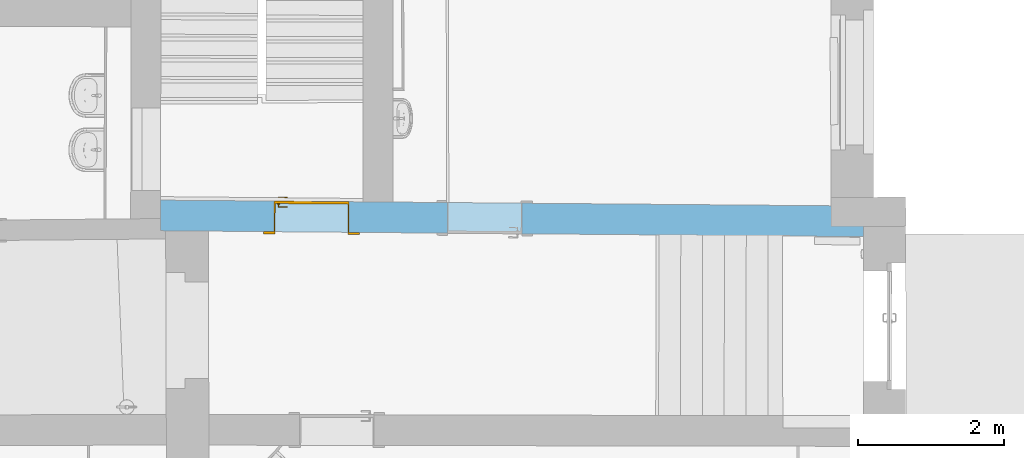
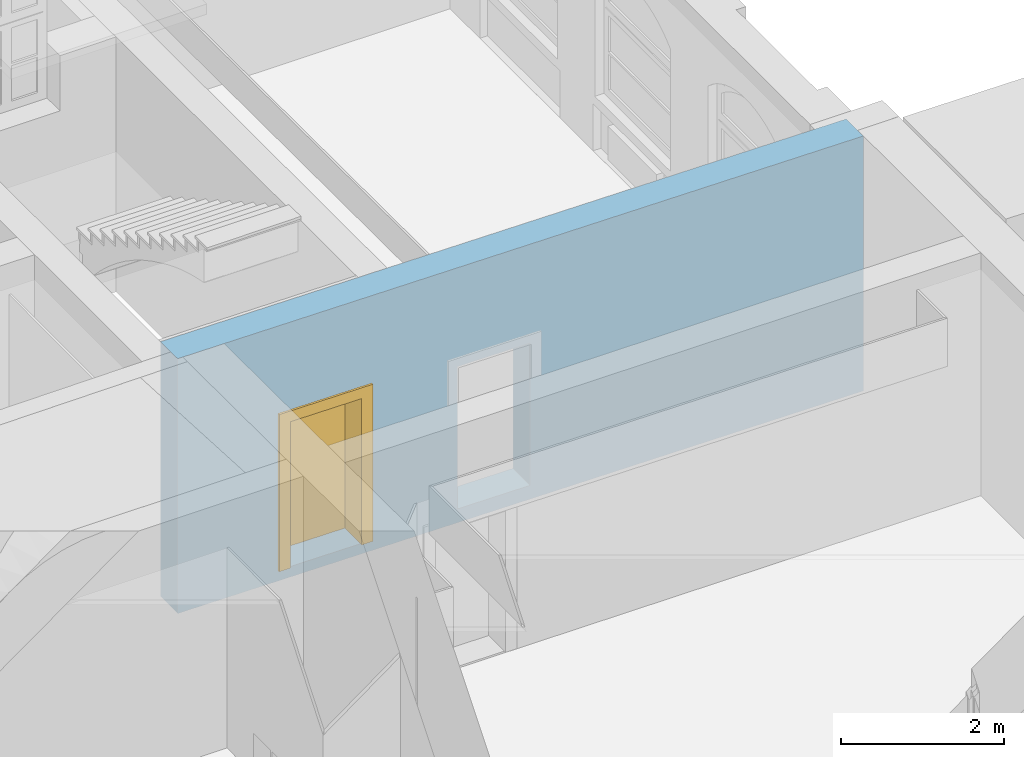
# One storey, part 85 of 158: 1 door, 2 openings, plus 1 element that does not belong to this part.
"""IFC2X3 building model written with IfcOpenShell, lengths in metres."""

from ifc_helpers import new_model, entity, si_unit, converted_unit, derived_unit, money_unit, direction, frame, origin_with_axes, origin_2d_with_axis, place, context, subcontext, project, spatial, polyline, rectangle, outline, extrude, open_shell, faceted_brep, surface_model, material, layer, layer_set, layer_usage, type_object, element, fill, save


model = new_model("IFC2X3")

# Units and contexts
model_context = context("Model", 3, precision=1e-05, world=origin_with_axes(), true_north=direction((0.0, 1.0)))
body_context = subcontext(model_context, "Body", "Model", "MODEL_VIEW")
ifc_project = project(units=[si_unit("LENGTHUNIT", "METRE"), si_unit("AREAUNIT", "SQUARE_METRE"), si_unit("VOLUMEUNIT", "CUBIC_METRE"), converted_unit("PLANEANGLEUNIT", "DEGREE", entity("IfcPlaneAngleMeasure", 0.0174532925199), si_unit("PLANEANGLEUNIT", "RADIAN"), dimensions=[0, 0, 0, 0, 0, 0, 0]), money_unit("EUR"), converted_unit("TIMEUNIT", "Year", entity("IfcTimeMeasure", 31556926.0), si_unit("TIMEUNIT", "SECOND"), dimensions=[0, 0, 1, 0, 0, 0, 0]), si_unit("MASSUNIT", "GRAM", prefix="KILO"), si_unit("THERMODYNAMICTEMPERATUREUNIT", "DEGREE_CELSIUS"), si_unit("LUMINOUSINTENSITYUNIT", "LUMEN"), si_unit("ENERGYUNIT", "JOULE", prefix="MEGA"), derived_unit("THERMALCONDUCTANCEUNIT", [(si_unit("POWERUNIT", "WATT"), 1), (si_unit("LENGTHUNIT", "METRE"), -1), (si_unit("THERMODYNAMICTEMPERATUREUNIT", "KELVIN"), -1)]), derived_unit("SPECIFICHEATCAPACITYUNIT", [(si_unit("ENERGYUNIT", "JOULE"), 1), (si_unit("MASSUNIT", "GRAM", prefix="KILO"), -1), (si_unit("THERMODYNAMICTEMPERATUREUNIT", "KELVIN"), -1)]), derived_unit("MASSDENSITYUNIT", [(si_unit("MASSUNIT", "GRAM", prefix="KILO"), 1), (si_unit("VOLUMEUNIT", "CUBIC_METRE"), -1)])], contexts=[model_context])

# Site, building, storey
site_placement = place(None, origin_with_axes())
site = spatial("IfcSite", under=ifc_project, at=site_placement, Name="Gelände", CompositionType="ELEMENT")
building_placement = place(site_placement, origin_with_axes())
building = spatial("IfcBuilding", under=site, at=building_placement, Name="Gebäude", CompositionType="ELEMENT")
storey_placement = place(building_placement, origin_with_axes())
storey = spatial("IfcBuildingStorey", under=building, at=storey_placement, Name="ERDGESCHOSS", CompositionType="ELEMENT", Elevation=0.0)

# Wall, openings, door
ifc_material = material(Name="05_ALLGEMEIN - TRAGENDE BAUTEILE")
ifc_layer = layer(ifc_material, 0.42, ventilated="UNKNOWN")
ifc_layer_set = layer_set([ifc_layer], Name="05_ALLGEMEIN - TRAGENDE BAUTEILE 0.42")
ifc_layer_usage = layer_usage(ifc_layer_set, "AXIS2", "NEGATIVE", 0.42)
wall_type = type_object("IfcWallType", Name="05_ALLGEMEIN - TRAGENDE BAUTEILE 420", PredefinedType="ELEMENTEDWALL")
wall_placement = place(storey_placement, frame((21.8936762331, 19.3427264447, -0.210000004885), z_axis=(0.0, 0.0, 1.0), x_axis=(0.999964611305, -0.00841285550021, 0.0)))
wall = element("IfcWallStandardCase", 1, at=wall_placement, inside=storey, type_object=wall_type, material=ifc_layer_usage, Name="Wand-039", ObjectType="ELEMENTEDWALL", context=body_context, shape_type="SweptSolid", body=[
    extrude(outline(polyline([(0.0, 0.0), (9.64700059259, 0.0), (9.64378739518, 0.42), (-0.00298585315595, 0.42), (0.0, 0.0)])), origin_with_axes(), (0.0, 0.0, 1.0), 3.81000000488),
])
opening_1_placement = place(wall_placement, frame((2.07098933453, 0.0, 0.156582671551), z_axis=(0.0, 0.0, 1.0), x_axis=(1.0, 0.0, 0.0)))
opening_1 = element("IfcOpeningElement", 2, at=opening_1_placement, cuts=wall, Name="Tür-022", context=body_context, shape_type="SweptSolid", body=[
    extrude(rectangle(XDim=1.02822560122, YDim=2.203152, at=origin_2d_with_axis()), frame((0.0, 0.42, 1.101576), z_axis=(0.0, -1.0, 0.0), x_axis=(1.0, 0.0, 0.0)), (0.0, 0.0, 1.0), 1.26),
])
opening_2_placement = place(wall_placement, frame((4.44709559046, 0.0, 0.205703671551), z_axis=(0.0, 0.0, 1.0), x_axis=(1.0, 0.0, 0.0)))
element("IfcOpeningElement", 3, at=opening_2_placement, cuts=wall, Name="Tür-022", context=body_context, shape_type="SweptSolid", body=[
    extrude(rectangle(XDim=1.0219033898, YDim=2.127002, at=origin_2d_with_axis()), frame((0.0, 0.42, 1.063501), z_axis=(0.0, -1.0, 0.0), x_axis=(-1.0, 0.0, 0.0)), (0.0, 0.0, 1.0), 1.26),
])
door_style = type_object("IfcDoorStyle", Name="Blockrahmentür 1-Fl 25", ConstructionType="NOTDEFINED", OperationType="SINGLE_SWING_RIGHT", ParameterTakesPrecedence=False, Sizeable=False)
door_placement = place(opening_1_placement, frame((-0.499112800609, 0.0, 0.0), z_axis=(0.0, 0.0, 1.0), x_axis=(1.0, 0.0, 0.0)))
door = element("IfcDoor", 4, at=door_placement, inside=storey, type_object=door_style, Name="Tür-022", ObjectType="NOTDEFINED", OverallHeight=2.20315, OverallWidth=1.02823, context=body_context, shape_type="SurfaceModel", body=[
    faceted_brep([(1.01322560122, -0.03, 0.0), (1.01322560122, 0.385, 0.0), (1.01322560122, 0.385, 2.203152), (1.01322560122, -0.03, 2.203152), (0.998225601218, -0.03, 0.0), (0.998225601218, 0.385, 0.0), (0.998225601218, 0.385, 2.188152), (0.614212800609, 0.385, 2.188152), (0.499212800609, 0.385, 2.188152), (0.0, 0.385, 2.188152), (0.0, 0.385, 0.0), (-0.015, 0.385, 0.0), (-0.015, 0.385, 2.203152), (-0.015, -0.03, 2.203152), (-0.015, -0.03, 0.0), (0.0, -0.03, 0.0), (0.0, -0.03, 2.188152), (0.499212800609, -0.03, 2.188152), (0.614212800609, -0.03, 2.188152), (0.998225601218, -0.03, 2.188152)], [[[0, 1, 2, 3]], [[4, 5, 1, 0]], [[1, 5, 6, 7, 8, 9, 10, 11, 12, 2]], [[3, 2, 12, 13]], [[0, 3, 13, 14, 15, 16, 17, 18, 19, 4]], [[19, 6, 5, 4]], [[18, 7, 6, 19]], [[17, 8, 7, 18]], [[16, 9, 8, 17]], [[15, 10, 9, 16]], [[14, 11, 10, 15]], [[13, 12, 11, 14]]]),
    surface_model("IfcShellBasedSurfaceModel", [(1.01322560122, 0.385, 0.0), (1.01322560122, 0.45, 0.0), (1.01322560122, 0.45, 2.203152), (1.01322560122, 0.385, 2.203152), (1.01322560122, 0.385, 2.203152), (1.01322560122, 0.45, 2.203152), (-0.015, 0.45, 2.203152), (0.514212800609, 0.45, 2.203152), (0.599212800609, 0.45, 2.203152), (0.599212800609, 0.385, 2.203152), (0.514212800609, 0.385, 2.203152), (-0.015, 0.385, 2.203152), (-0.015, 0.385, 2.203152), (-0.015, 0.385, 0.0), (-0.015, 0.45, 0.0), (-0.015, 0.45, 2.203152)], [open_shell([[[0, 1, 2, 3]], [[4, 5, 1, 0]], [[6, 7, 8, 2]], [[3, 2, 8, 9]], [[9, 10, 11, 4]], [[12, 6, 5, 4]], [[13, 14, 6, 12]], [[11, 15, 14, 13]], [[10, 7, 15, 11]], [[9, 8, 7, 10]]])]),
    faceted_brep([(1.15822560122, -0.03, 0.0), (1.15822560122, 0.0, 0.0), (1.15822560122, 0.0, 2.348152), (1.15822560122, -0.03, 2.348152), (1.01322560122, -0.03, 0.0), (1.01322560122, 0.0, 0.0), (1.01322560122, 0.0, 2.203152), (-0.015, 0.0, 2.203152), (-0.015, 0.0, 0.0), (-0.16, 0.0, 0.0), (-0.16, 0.0, 2.348152), (-0.16, -0.03, 2.348152), (-0.16, -0.03, 0.0), (-0.015, -0.03, 0.0), (-0.015, -0.03, 2.203152), (1.01322560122, -0.03, 2.203152)], [[[0, 1, 2, 3]], [[4, 5, 1, 0]], [[1, 5, 6, 7, 8, 9, 10, 2]], [[3, 2, 10, 11]], [[0, 3, 11, 12, 13, 14, 15, 4]], [[15, 6, 5, 4]], [[14, 7, 6, 15]], [[13, 8, 7, 14]], [[12, 9, 8, 13]], [[11, 10, 9, 12]]]),
    faceted_brep([(1.15822560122, 0.42, 0.0), (1.15822560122, 0.45, 0.0), (1.15822560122, 0.45, 2.348152), (1.15822560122, 0.42, 2.348152), (1.01322560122, 0.42, 0.0), (1.01322560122, 0.45, 0.0), (1.01322560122, 0.45, 2.203152), (-0.015, 0.45, 2.203152), (-0.015, 0.45, 0.0), (-0.16, 0.45, 0.0), (-0.16, 0.45, 2.348152), (-0.16, 0.42, 2.348152), (-0.16, 0.42, 0.0), (-0.015, 0.42, 0.0), (-0.015, 0.42, 2.203152), (1.01322560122, 0.42, 2.203152)], [[[0, 1, 2, 3]], [[4, 5, 1, 0]], [[1, 5, 6, 7, 8, 9, 10, 2]], [[3, 2, 10, 11]], [[0, 3, 11, 12, 13, 14, 15, 4]], [[15, 6, 5, 4]], [[14, 7, 6, 15]], [[13, 8, 7, 14]], [[12, 9, 8, 13]], [[11, 10, 9, 12]]]),
    faceted_brep([(1.01322560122, 0.422, 0.0), (-0.015, 0.422, 0.0), (-0.015, 0.422, 2.203152), (1.01322560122, 0.422, 2.203152), (1.01322560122, 0.385, 0.0), (-0.015, 0.385, 0.0), (-0.015, 0.385, 2.203152), (1.01322560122, 0.385, 2.203152)], [[[0, 1, 2, 3]], [[1, 0, 4, 5]], [[2, 1, 5, 6]], [[3, 2, 6, 7]], [[0, 3, 7, 4]], [[5, 4, 7, 6]]]),
    faceted_brep([(0.0402977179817, 0.345, 1.05647213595), (0.045, 0.345, 1.058), (0.045, 0.365, 1.058), (0.0402977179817, 0.365, 1.05647213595), (0.0373915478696, 0.345, 1.05247213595), (0.0373915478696, 0.345, 1.04752786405), (0.0402977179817, 0.345, 1.04352786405), (0.045, 0.345, 1.042), (0.0497022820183, 0.345, 1.04352786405), (0.0526084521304, 0.345, 1.04752786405), (0.0526084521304, 0.345, 1.05247213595), (0.0497022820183, 0.345, 1.05647213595), (0.0497022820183, 0.365, 1.05647213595), (0.045, 0.367, 1.06), (0.0391221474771, 0.367, 1.05809016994), (0.0373915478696, 0.365, 1.05247213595), (0.0373915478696, 0.365, 1.04752786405), (0.0402977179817, 0.365, 1.04352786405), (0.045, 0.365, 1.042), (0.0497022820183, 0.365, 1.04352786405), (0.0526084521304, 0.365, 1.04752786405), (0.0526084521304, 0.365, 1.05247213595), (0.0508778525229, 0.367, 1.05809016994), (0.045, 0.375, 1.06), (0.0391221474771, 0.375, 1.05809016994), (0.0354894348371, 0.367, 1.05309016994), (0.0354894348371, 0.367, 1.04690983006), (0.0391221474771, 0.367, 1.04190983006), (0.045, 0.367, 1.04), (0.0508778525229, 0.367, 1.04190983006), (0.054510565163, 0.367, 1.04690983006), (0.054510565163, 0.367, 1.05309016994), (0.0508778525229, 0.375, 1.05809016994), (0.054510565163, 0.375, 1.05309016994), (0.054510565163, 0.375, 1.04690983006), (0.0508778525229, 0.375, 1.04190983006), (0.045, 0.375, 1.04), (0.0391221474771, 0.375, 1.04190983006), (0.0354894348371, 0.375, 1.04690983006), (0.0354894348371, 0.375, 1.05309016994)], [[[0, 1, 2, 3]], [[1, 0, 4, 5, 6, 7, 8, 9, 10, 11]], [[1, 11, 12, 2]], [[3, 2, 13, 14]], [[4, 0, 3, 15]], [[5, 4, 15, 16]], [[6, 5, 16, 17]], [[7, 6, 17, 18]], [[8, 7, 18, 19]], [[9, 8, 19, 20]], [[10, 9, 20, 21]], [[11, 10, 21, 12]], [[2, 12, 22, 13]], [[14, 13, 23, 24]], [[15, 3, 14, 25]], [[16, 15, 25, 26]], [[17, 16, 26, 27]], [[18, 17, 27, 28]], [[19, 18, 28, 29]], [[20, 19, 29, 30]], [[21, 20, 30, 31]], [[12, 21, 31, 22]], [[13, 22, 32, 23]], [[23, 32, 33, 34, 35, 36, 37, 38, 39, 24]], [[25, 14, 24, 39]], [[26, 25, 39, 38]], [[27, 26, 38, 37]], [[28, 27, 37, 36]], [[29, 28, 36, 35]], [[30, 29, 35, 34]], [[31, 30, 34, 33]], [[22, 31, 33, 32]]]),
    faceted_brep([(0.0571883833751, 0.375, 1.11759695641), (0.0494435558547, 0.375, 1.12195567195), (0.0405564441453, 0.375, 1.12195567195), (0.0328116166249, 0.375, 1.11759695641), (0.0282, 0.375, 1.11), (0.0225, 0.375, 1.11), (0.0225, 0.375, 0.89), (0.0282, 0.375, 0.89), (0.0328116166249, 0.375, 0.882403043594), (0.0405564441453, 0.375, 0.878044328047), (0.0494435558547, 0.375, 0.878044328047), (0.0571883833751, 0.375, 0.882403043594), (0.0618, 0.375, 0.89), (0.0675, 0.375, 0.89), (0.0675, 0.375, 1.11), (0.0618, 0.375, 1.11), (0.045, 0.375, 0.967425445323), (0.050375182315, 0.375, 0.965143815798), (0.0524678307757, 0.375, 0.959692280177), (0.05, 0.375, 0.9544), (0.05, 0.375, 0.9375), (0.0485355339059, 0.375, 0.933964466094), (0.045, 0.375, 0.9325), (0.0414644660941, 0.375, 0.933964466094), (0.04, 0.375, 0.9375), (0.04, 0.375, 0.9544), (0.0375321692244, 0.375, 0.959692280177), (0.039624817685, 0.375, 0.965143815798), (0.0571883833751, 0.385, 1.11759695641), (0.0494435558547, 0.385, 1.12195567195), (0.0405564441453, 0.385, 1.12195567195), (0.0328116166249, 0.385, 1.11759695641), (0.0282, 0.385, 1.11), (0.0225, 0.385, 1.11), (0.0225, 0.385, 0.89), (0.0282, 0.385, 0.89), (0.0328116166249, 0.385, 0.882403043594), (0.0405564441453, 0.385, 0.878044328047), (0.0494435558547, 0.385, 0.878044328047), (0.0571883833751, 0.385, 0.882403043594), (0.0618, 0.385, 0.89), (0.0675, 0.385, 0.89), (0.0675, 0.385, 1.11), (0.0618, 0.385, 1.11), (0.045, 0.385, 0.967425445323), (0.050375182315, 0.385, 0.965143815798), (0.0524678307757, 0.385, 0.959692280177), (0.05, 0.385, 0.9544), (0.05, 0.385, 0.9375), (0.0485355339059, 0.385, 0.933964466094), (0.045, 0.385, 0.9325), (0.0414644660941, 0.385, 0.933964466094), (0.04, 0.385, 0.9375), (0.04, 0.385, 0.9544), (0.0375321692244, 0.385, 0.959692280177), (0.039624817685, 0.385, 0.965143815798)], [[[0, 1, 2, 3, 4, 5, 6, 7, 8, 9, 10, 11, 12, 13, 14, 15], [16, 17, 18, 19, 20, 21, 22, 23, 24, 25, 26, 27]], [[1, 0, 28, 29]], [[2, 1, 29, 30]], [[3, 2, 30, 31]], [[4, 3, 31, 32]], [[5, 4, 32, 33]], [[6, 5, 33, 34]], [[7, 6, 34, 35]], [[8, 7, 35, 36]], [[9, 8, 36, 37]], [[10, 9, 37, 38]], [[11, 10, 38, 39]], [[12, 11, 39, 40]], [[13, 12, 40, 41]], [[14, 13, 41, 42]], [[15, 14, 42, 43]], [[0, 15, 43, 28]], [[17, 16, 44, 45]], [[18, 17, 45, 46]], [[19, 18, 46, 47]], [[19, 47, 48, 20]], [[20, 48, 49, 21]], [[21, 49, 50, 22]], [[22, 50, 51, 23]], [[23, 51, 52, 24]], [[53, 25, 24, 52]], [[26, 25, 53, 54]], [[27, 26, 54, 55]], [[16, 27, 55, 44]], [[40, 39, 38, 37, 36, 35, 34, 33, 32, 31, 30, 29, 28, 43, 42, 41], [54, 53, 52, 51, 50, 49, 48, 47, 46, 45, 44, 55]]]),
    faceted_brep([(0.159253, 0.345, 1.057158), (0.159253, 0.33, 1.057158), (0.159254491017, 0.33, 1.05719388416), (0.159254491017, 0.345, 1.05719388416), (0.132225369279, 0.345, 1.06432652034), (0.132225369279, 0.33, 1.06432652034), (0.104397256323, 0.33, 1.06706086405), (0.0764912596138, 0.33, 1.06529002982), (0.049232, 0.33, 1.05906), (0.0428294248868, 0.33, 1.05976125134), (0.0373273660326, 0.33, 1.05641280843), (0.0350084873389, 0.33, 1.05040385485), (0.0368348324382, 0.33, 1.04422735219), (0.0420486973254, 0.33, 1.04044577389), (0.0484869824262, 0.33, 1.04062800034), (0.0534786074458, 0.33, 1.04469843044), (0.053458, 0.33, 1.044666), (0.0787467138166, 0.33, 1.05019878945), (0.104589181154, 0.33, 1.05171460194), (0.130351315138, 0.33, 1.04917624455), (0.155401, 0.33, 1.042646), (0.160944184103, 0.33, 1.04356849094), (0.16430572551, 0.33, 1.04807159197), (0.163614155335, 0.33, 1.05364829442), (0.163614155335, 0.345, 1.05364829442), (0.16430572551, 0.345, 1.04807159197), (0.160944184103, 0.345, 1.04356849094), (0.155401, 0.345, 1.042646), (0.130351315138, 0.345, 1.04917624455), (0.104589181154, 0.345, 1.05171460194), (0.0787467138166, 0.345, 1.05019878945), (0.053458, 0.345, 1.044666), (0.0534786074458, 0.345, 1.04469843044), (0.0484869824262, 0.345, 1.04062800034), (0.0420486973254, 0.345, 1.04044577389), (0.0368348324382, 0.345, 1.04422735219), (0.0350084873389, 0.345, 1.05040385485), (0.0373273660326, 0.345, 1.05641280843), (0.0428294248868, 0.345, 1.05976125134), (0.049232, 0.345, 1.05906), (0.0764912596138, 0.345, 1.06529002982), (0.104397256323, 0.345, 1.06706086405)], [[[0, 1, 2, 3]], [[4, 5, 1, 0]], [[1, 5, 6, 7, 8, 9, 10, 11, 12, 13, 14, 15, 16, 17, 18, 19, 20, 21, 22, 23, 2]], [[3, 2, 23, 24]], [[0, 3, 24, 25, 26, 27, 28, 29, 30, 31, 32, 33, 34, 35, 36, 37, 38, 39, 40, 41, 4]], [[41, 6, 5, 4]], [[40, 7, 6, 41]], [[39, 8, 7, 40]], [[38, 9, 8, 39]], [[37, 10, 9, 38]], [[36, 11, 10, 37]], [[35, 12, 11, 36]], [[34, 13, 12, 35]], [[33, 14, 13, 34]], [[32, 15, 14, 33]], [[31, 16, 15, 32]], [[30, 17, 16, 31]], [[29, 18, 17, 30]], [[28, 19, 18, 29]], [[27, 20, 19, 28]], [[26, 21, 20, 27]], [[25, 22, 21, 26]], [[24, 23, 22, 25]]]),
    faceted_brep([(0.0402977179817, 0.462, 1.05647213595), (0.0402977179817, 0.442, 1.05647213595), (0.045, 0.442, 1.058), (0.045, 0.462, 1.058), (0.0373915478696, 0.462, 1.05247213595), (0.0373915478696, 0.442, 1.05247213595), (0.0391221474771, 0.44, 1.05809016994), (0.045, 0.44, 1.06), (0.0497022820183, 0.442, 1.05647213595), (0.0497022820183, 0.462, 1.05647213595), (0.0526084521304, 0.462, 1.05247213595), (0.0526084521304, 0.462, 1.04752786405), (0.0497022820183, 0.462, 1.04352786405), (0.045, 0.462, 1.042), (0.0402977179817, 0.462, 1.04352786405), (0.0373915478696, 0.462, 1.04752786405), (0.0373915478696, 0.442, 1.04752786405), (0.0354894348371, 0.44, 1.05309016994), (0.0391221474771, 0.432, 1.05809016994), (0.045, 0.432, 1.06), (0.0508778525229, 0.44, 1.05809016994), (0.0526084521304, 0.442, 1.05247213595), (0.0526084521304, 0.442, 1.04752786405), (0.0497022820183, 0.442, 1.04352786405), (0.045, 0.442, 1.042), (0.0402977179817, 0.442, 1.04352786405), (0.0354894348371, 0.44, 1.04690983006), (0.0354894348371, 0.432, 1.05309016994), (0.0354894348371, 0.432, 1.04690983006), (0.0391221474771, 0.432, 1.04190983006), (0.045, 0.432, 1.04), (0.0508778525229, 0.432, 1.04190983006), (0.054510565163, 0.432, 1.04690983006), (0.054510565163, 0.432, 1.05309016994), (0.0508778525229, 0.432, 1.05809016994), (0.054510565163, 0.44, 1.05309016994), (0.054510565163, 0.44, 1.04690983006), (0.0508778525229, 0.44, 1.04190983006), (0.045, 0.44, 1.04), (0.0391221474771, 0.44, 1.04190983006)], [[[0, 1, 2, 3]], [[4, 5, 1, 0]], [[1, 6, 7, 2]], [[3, 2, 8, 9]], [[3, 9, 10, 11, 12, 13, 14, 15, 4, 0]], [[15, 16, 5, 4]], [[5, 17, 6, 1]], [[6, 18, 19, 7]], [[2, 7, 20, 8]], [[9, 8, 21, 10]], [[10, 21, 22, 11]], [[11, 22, 23, 12]], [[12, 23, 24, 13]], [[13, 24, 25, 14]], [[14, 25, 16, 15]], [[16, 26, 17, 5]], [[17, 27, 18, 6]], [[19, 18, 27, 28, 29, 30, 31, 32, 33, 34]], [[7, 19, 34, 20]], [[8, 20, 35, 21]], [[21, 35, 36, 22]], [[22, 36, 37, 23]], [[23, 37, 38, 24]], [[24, 38, 39, 25]], [[25, 39, 26, 16]], [[26, 28, 27, 17]], [[39, 29, 28, 26]], [[38, 30, 29, 39]], [[37, 31, 30, 38]], [[36, 32, 31, 37]], [[35, 33, 32, 36]], [[20, 34, 33, 35]]]),
    faceted_brep([(0.0571883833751, 0.422, 1.11759695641), (0.0494435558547, 0.422, 1.12195567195), (0.0405564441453, 0.422, 1.12195567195), (0.0328116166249, 0.422, 1.11759695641), (0.0282, 0.422, 1.11), (0.0225, 0.422, 1.11), (0.0225, 0.422, 0.89), (0.0282, 0.422, 0.89), (0.0328116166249, 0.422, 0.882403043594), (0.0405564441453, 0.422, 0.878044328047), (0.0494435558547, 0.422, 0.878044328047), (0.0571883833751, 0.422, 0.882403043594), (0.0618, 0.422, 0.89), (0.0675, 0.422, 0.89), (0.0675, 0.422, 1.11), (0.0618, 0.422, 1.11), (0.045, 0.422, 0.967425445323), (0.050375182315, 0.422, 0.965143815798), (0.0524678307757, 0.422, 0.959692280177), (0.05, 0.422, 0.9544), (0.05, 0.422, 0.9375), (0.0485355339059, 0.422, 0.933964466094), (0.045, 0.422, 0.9325), (0.0414644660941, 0.422, 0.933964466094), (0.04, 0.422, 0.9375), (0.04, 0.422, 0.9544), (0.0375321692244, 0.422, 0.959692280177), (0.039624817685, 0.422, 0.965143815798), (0.0494435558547, 0.432, 1.12195567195), (0.0571883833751, 0.432, 1.11759695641), (0.0405564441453, 0.432, 1.12195567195), (0.0328116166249, 0.432, 1.11759695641), (0.0282, 0.432, 1.11), (0.0225, 0.432, 1.11), (0.0225, 0.432, 0.89), (0.0282, 0.432, 0.89), (0.0328116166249, 0.432, 0.882403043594), (0.0405564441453, 0.432, 0.878044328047), (0.0494435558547, 0.432, 0.878044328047), (0.0571883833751, 0.432, 0.882403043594), (0.0618, 0.432, 0.89), (0.0675, 0.432, 0.89), (0.0675, 0.432, 1.11), (0.0618, 0.432, 1.11), (0.045, 0.432, 0.967425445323), (0.050375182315, 0.432, 0.965143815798), (0.0524678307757, 0.432, 0.959692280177), (0.05, 0.432, 0.9544), (0.05, 0.432, 0.9375), (0.0485355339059, 0.432, 0.933964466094), (0.045, 0.432, 0.9325), (0.0414644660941, 0.432, 0.933964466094), (0.04, 0.432, 0.9375), (0.04, 0.432, 0.9544), (0.0375321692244, 0.432, 0.959692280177), (0.0396248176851, 0.432, 0.965143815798)], [[[0, 1, 2, 3, 4, 5, 6, 7, 8, 9, 10, 11, 12, 13, 14, 15], [16, 17, 18, 19, 20, 21, 22, 23, 24, 25, 26, 27]], [[28, 1, 0, 29]], [[30, 2, 1, 28]], [[31, 3, 2, 30]], [[32, 4, 3, 31]], [[33, 5, 4, 32]], [[34, 6, 5, 33]], [[35, 7, 6, 34]], [[36, 8, 7, 35]], [[37, 9, 8, 36]], [[38, 10, 9, 37]], [[39, 11, 10, 38]], [[40, 12, 11, 39]], [[41, 13, 12, 40]], [[42, 14, 13, 41]], [[43, 15, 14, 42]], [[29, 0, 15, 43]], [[17, 16, 44, 45]], [[18, 17, 45, 46]], [[19, 18, 46, 47]], [[19, 47, 48, 20]], [[20, 48, 49, 21]], [[21, 49, 50, 22]], [[22, 50, 51, 23]], [[23, 51, 52, 24]], [[53, 25, 24, 52]], [[26, 25, 53, 54]], [[27, 26, 54, 55]], [[16, 27, 55, 44]], [[40, 39, 38, 37, 36, 35, 34, 33, 32, 31, 30, 28, 29, 43, 42, 41], [54, 53, 52, 51, 50, 49, 48, 47, 46, 45, 44, 55]]]),
    faceted_brep([(0.159253, 0.462, 1.057158), (0.159254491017, 0.462, 1.05719388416), (0.159254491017, 0.477, 1.05719388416), (0.159253, 0.477, 1.057158), (0.132225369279, 0.462, 1.06432652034), (0.104397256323, 0.462, 1.06706086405), (0.0764912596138, 0.462, 1.06529002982), (0.049232, 0.462, 1.05906), (0.0428294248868, 0.462, 1.05976125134), (0.0373273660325, 0.462, 1.05641280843), (0.0350084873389, 0.462, 1.05040385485), (0.0368348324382, 0.462, 1.04422735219), (0.0420486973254, 0.462, 1.04044577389), (0.0484869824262, 0.462, 1.04062800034), (0.0534786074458, 0.462, 1.04469843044), (0.053458, 0.462, 1.044666), (0.0787467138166, 0.462, 1.05019878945), (0.104589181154, 0.462, 1.05171460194), (0.130351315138, 0.462, 1.04917624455), (0.155401, 0.462, 1.042646), (0.160944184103, 0.462, 1.04356849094), (0.16430572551, 0.462, 1.04807159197), (0.163614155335, 0.462, 1.05364829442), (0.163614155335, 0.477, 1.05364829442), (0.16430572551, 0.477, 1.04807159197), (0.160944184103, 0.477, 1.04356849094), (0.155401, 0.477, 1.042646), (0.130351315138, 0.477, 1.04917624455), (0.104589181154, 0.477, 1.05171460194), (0.0787467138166, 0.477, 1.05019878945), (0.053458, 0.477, 1.044666), (0.0534786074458, 0.477, 1.04469843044), (0.0484869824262, 0.477, 1.04062800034), (0.0420486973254, 0.477, 1.04044577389), (0.0368348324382, 0.477, 1.04422735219), (0.0350084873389, 0.477, 1.05040385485), (0.0373273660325, 0.477, 1.05641280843), (0.0428294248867, 0.477, 1.05976125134), (0.049232, 0.477, 1.05906), (0.0764912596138, 0.477, 1.06529002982), (0.104397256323, 0.477, 1.06706086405), (0.132225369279, 0.477, 1.06432652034)], [[[0, 1, 2, 3]], [[0, 4, 5, 6, 7, 8, 9, 10, 11, 12, 13, 14, 15, 16, 17, 18, 19, 20, 21, 22, 1]], [[1, 22, 23, 2]], [[3, 2, 23, 24, 25, 26, 27, 28, 29, 30, 31, 32, 33, 34, 35, 36, 37, 38, 39, 40, 41]], [[4, 0, 3, 41]], [[5, 4, 41, 40]], [[6, 5, 40, 39]], [[7, 6, 39, 38]], [[8, 7, 38, 37]], [[9, 8, 37, 36]], [[10, 9, 36, 35]], [[11, 10, 35, 34]], [[12, 11, 34, 33]], [[13, 12, 33, 32]], [[14, 13, 32, 31]], [[15, 14, 31, 30]], [[16, 15, 30, 29]], [[17, 16, 29, 28]], [[18, 17, 28, 27]], [[19, 18, 27, 26]], [[20, 19, 26, 25]], [[21, 20, 25, 24]], [[22, 21, 24, 23]]]),
])
fill(opening_1, door)

save(model, "model.ifc")
